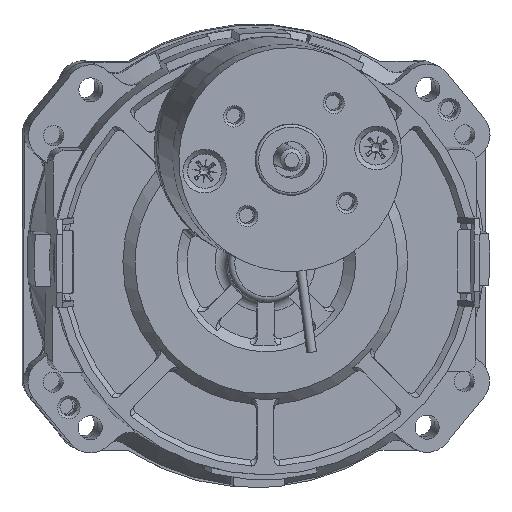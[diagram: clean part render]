
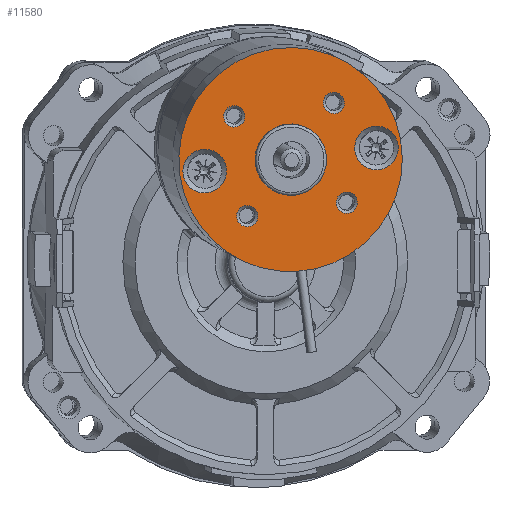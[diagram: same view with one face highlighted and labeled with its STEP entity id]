
A CAD part, top view. The second image highlights one B-rep face of the part: STEP entity #11580.
In plain terms, the highlighted planar face has unit normal (0.085, -0.045, 0.995) as drawn and (0, 0, 1) by its records, which use the part's own axes.
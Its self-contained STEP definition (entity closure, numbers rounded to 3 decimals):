
#710=FACE_BOUND('',#2560,.T.);
#711=FACE_BOUND('',#2561,.T.);
#712=FACE_BOUND('',#2562,.T.);
#713=FACE_BOUND('',#2563,.T.);
#714=FACE_BOUND('',#2564,.T.);
#715=FACE_BOUND('',#2565,.T.);
#716=FACE_BOUND('',#2566,.T.);
#1659=FACE_OUTER_BOUND('',#2559,.T.);
#2559=EDGE_LOOP('',(#10496));
#2560=EDGE_LOOP('',(#10497));
#2561=EDGE_LOOP('',(#10498));
#2562=EDGE_LOOP('',(#10499));
#2563=EDGE_LOOP('',(#10500));
#2564=EDGE_LOOP('',(#10501));
#2565=EDGE_LOOP('',(#10502));
#2566=EDGE_LOOP('',(#10503));
#4547=CIRCLE('',#12860,3.9);
#4550=CIRCLE('',#12865,3.9);
#4554=CIRCLE('',#12871,1.9);
#4555=CIRCLE('',#12873,20.);
#4556=CIRCLE('',#12874,1.9);
#4557=CIRCLE('',#12875,1.9);
#4558=CIRCLE('',#12876,6.35);
#4559=CIRCLE('',#12877,1.9);
#5673=VERTEX_POINT('',#21981);
#5676=VERTEX_POINT('',#21989);
#5680=VERTEX_POINT('',#21999);
#5681=VERTEX_POINT('',#22002);
#5682=VERTEX_POINT('',#22004);
#5683=VERTEX_POINT('',#22006);
#5684=VERTEX_POINT('',#22008);
#5685=VERTEX_POINT('',#22010);
#7286=EDGE_CURVE('',#5673,#5673,#4547,.T.);
#7289=EDGE_CURVE('',#5676,#5676,#4550,.T.);
#7293=EDGE_CURVE('',#5680,#5680,#4554,.T.);
#7294=EDGE_CURVE('',#5681,#5681,#4555,.T.);
#7295=EDGE_CURVE('',#5682,#5682,#4556,.T.);
#7296=EDGE_CURVE('',#5683,#5683,#4557,.T.);
#7297=EDGE_CURVE('',#5684,#5684,#4558,.T.);
#7298=EDGE_CURVE('',#5685,#5685,#4559,.T.);
#10496=ORIENTED_EDGE('',*,*,#7294,.F.);
#10497=ORIENTED_EDGE('',*,*,#7286,.T.);
#10498=ORIENTED_EDGE('',*,*,#7289,.T.);
#10499=ORIENTED_EDGE('',*,*,#7295,.F.);
#10500=ORIENTED_EDGE('',*,*,#7296,.F.);
#10501=ORIENTED_EDGE('',*,*,#7297,.T.);
#10502=ORIENTED_EDGE('',*,*,#7298,.F.);
#10503=ORIENTED_EDGE('',*,*,#7293,.F.);
#10906=PLANE('',#12872);
#11580=ADVANCED_FACE('',(#1659,#710,#711,#712,#713,#714,#715,#716),#10906,
 .F.);
#12860=AXIS2_PLACEMENT_3D('',#21982,#16100,#16101);
#12865=AXIS2_PLACEMENT_3D('',#21990,#16110,#16111);
#12871=AXIS2_PLACEMENT_3D('',#22000,#16122,#16123);
#12872=AXIS2_PLACEMENT_3D('',#22001,#16124,#16125);
#12873=AXIS2_PLACEMENT_3D('',#22003,#16126,#16127);
#12874=AXIS2_PLACEMENT_3D('',#22005,#16128,#16129);
#12875=AXIS2_PLACEMENT_3D('',#22007,#16130,#16131);
#12876=AXIS2_PLACEMENT_3D('',#22009,#16132,#16133);
#12877=AXIS2_PLACEMENT_3D('',#22011,#16134,#16135);
#16100=DIRECTION('center_axis',(0.,0.,-1.));
#16101=DIRECTION('ref_axis',(-1.,0.,0.));
#16110=DIRECTION('center_axis',(0.,0.,-1.));
#16111=DIRECTION('ref_axis',(1.,0.,0.));
#16122=DIRECTION('center_axis',(0.,0.,1.));
#16123=DIRECTION('ref_axis',(0.,-1.,0.));
#16124=DIRECTION('center_axis',(0.,0.,-1.));
#16125=DIRECTION('ref_axis',(-1.,0.,0.));
#16126=DIRECTION('center_axis',(0.,0.,-1.));
#16127=DIRECTION('ref_axis',(-1.,0.,0.));
#16128=DIRECTION('center_axis',(0.,0.,1.));
#16129=DIRECTION('ref_axis',(1.,0.,0.));
#16130=DIRECTION('center_axis',(0.,0.,1.));
#16131=DIRECTION('ref_axis',(-1.,0.,0.));
#16132=DIRECTION('center_axis',(0.,0.,-1.));
#16133=DIRECTION('ref_axis',(-1.,0.,0.));
#16134=DIRECTION('center_axis',(0.,0.,1.));
#16135=DIRECTION('ref_axis',(0.,1.,0.));
#21981=CARTESIAN_POINT('',(-19.4,0.,12.6));
#21982=CARTESIAN_POINT('Origin',(-15.5,0.,12.6));
#21989=CARTESIAN_POINT('',(19.4,0.,12.6));
#21990=CARTESIAN_POINT('Origin',(15.5,0.,12.6));
#21999=CARTESIAN_POINT('',(-8.98,10.88,12.6));
#22000=CARTESIAN_POINT('Origin',(-8.98,8.98,12.6));
#22001=CARTESIAN_POINT('Origin',(0.,0.,12.6));
#22002=CARTESIAN_POINT('',(20.,0.,12.6));
#22003=CARTESIAN_POINT('Origin',(0.,0.,12.6));
#22004=CARTESIAN_POINT('',(-10.88,-8.98,12.6));
#22005=CARTESIAN_POINT('Origin',(-8.98,-8.98,12.6));
#22006=CARTESIAN_POINT('',(10.88,8.98,12.6));
#22007=CARTESIAN_POINT('Origin',(8.98,8.98,12.6));
#22008=CARTESIAN_POINT('',(6.35,0.,12.6));
#22009=CARTESIAN_POINT('Origin',(0.,0.,12.6));
#22010=CARTESIAN_POINT('',(8.98,-10.88,12.6));
#22011=CARTESIAN_POINT('Origin',(8.98,-8.98,12.6));
